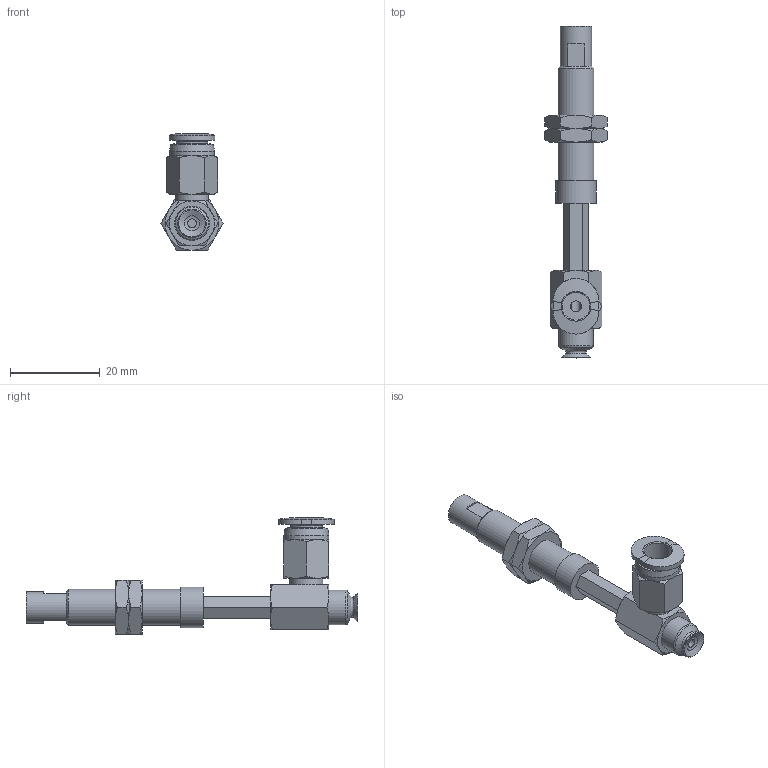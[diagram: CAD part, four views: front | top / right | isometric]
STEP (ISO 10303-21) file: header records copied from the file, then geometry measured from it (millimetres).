
FILE_DESCRIPTION(('STEP AP203'),'1');
FILE_NAME('-O.stp','2025-04-10T03:01:31',(' '),(' '),'Spatial InterOp 3D',' ',' ');
FILE_SCHEMA(('CONFIG_CONTROL_DESIGN'));
Length unit declared in the file: millimetre
Products named in the file (7): BNABPFYH-6A-15-※-O; CONNECTOR-H-6A-15; Nut-6A-15-h; NAPFTH-6A-15-FBODY; NAPFTH-6A-15-MBODY; BPFG-6A-※; PC-C_06-M5
Assembly tree (7 placements, depth 2):
  BNABPFYH-6A-15-※-O
    CONNECTOR-H-6A-15
    Nut-6A-15-h  x2
    NAPFTH-6A-15-FBODY
    NAPFTH-6A-15-MBODY
    BPFG-6A-※
    PC-C_06-M5
Bounding box: 13.86 x 74 x 25.98 mm (x, y, z)
Volume: 3801.6 mm3; surface area: 5789 mm2
Topology: 6 solids, 9 shells, 189 faces, 402 edges, 244 vertices
Faces by surface type: plane 79, cone 67, cylinder 24, torus 11, bspline 5, revolution 3
Full cylindrical faces by diameter (mm): 2 x2, 4 x4, 4.134 x2, 5 x2, 6 x2, 7 x2, 7.188 x2, 7.4 x1, 7.7 x1, 8 x1, 8.2 x1, 9 x1, 10 x1
Entity records: 4959 total; most frequent: CARTESIAN_POINT 1398, DIRECTION 659, ORIENTED_EDGE 584, EDGE_CURVE 294, AXIS2_PLACEMENT_3D 281, EDGE_LOOP 242, VERTEX_POINT 206, FACE_OUTER_BOUND 139
